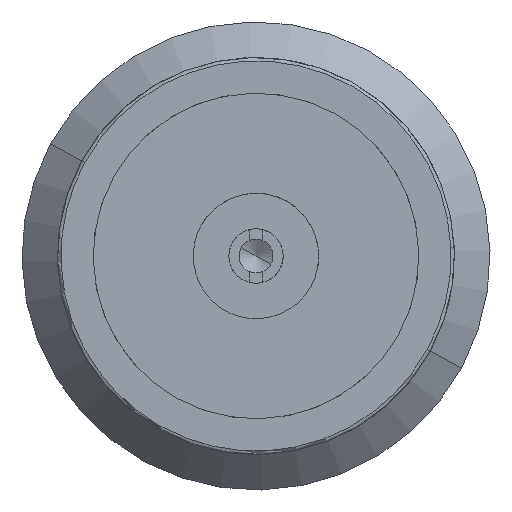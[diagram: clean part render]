
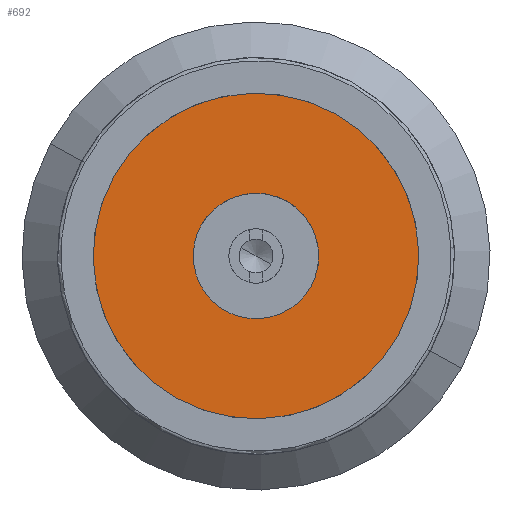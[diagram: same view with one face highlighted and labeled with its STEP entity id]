
A CAD part, left-side view. The second image highlights one B-rep face of the part: STEP entity #692.
In plain terms, the highlighted planar face has unit normal (-1, 0, 0).
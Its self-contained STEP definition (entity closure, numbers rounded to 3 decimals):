
#578=CARTESIAN_POINT('Vertex',(3.,0.812,0.443)) ;
#582=CARTESIAN_POINT('Control Point',(3.,-0.812,-0.443)) ;
#583=CARTESIAN_POINT('Control Point',(3.,-0.672,-0.698)) ;
#584=CARTESIAN_POINT('Control Point',(3.,-0.433,-0.899)) ;
#585=CARTESIAN_POINT('Control Point',(3.,-0.121,-0.99)) ;
#586=CARTESIAN_POINT('Control Point',(3.,0.498,-0.912)) ;
#587=CARTESIAN_POINT('Control Point',(3.,0.899,-0.433)) ;
#588=CARTESIAN_POINT('Control Point',(3.,0.99,-0.121)) ;
#589=CARTESIAN_POINT('Control Point',(3.,0.951,0.188)) ;
#590=CARTESIAN_POINT('Control Point',(3.,0.812,0.443)) ;
#591=CARTESIAN_POINT('Vertex',(3.,-0.812,-0.443)) ;
#611=CARTESIAN_POINT('Axis2P3D Location',(3.,0.,0.)) ;
#623=CARTESIAN_POINT('Axis2P3D Location',(3.,-2.4,0.)) ;
#629=CARTESIAN_POINT('Control Point',(3.,-2.106,-1.151)) ;
#630=CARTESIAN_POINT('Control Point',(3.,-1.997,-1.35)) ;
#631=CARTESIAN_POINT('Control Point',(3.,-1.864,-1.537)) ;
#632=CARTESIAN_POINT('Control Point',(3.,-1.71,-1.707)) ;
#633=CARTESIAN_POINT('Control Point',(3.,-1.363,-2.008)) ;
#634=CARTESIAN_POINT('Control Point',(3.,-0.956,-2.219)) ;
#635=CARTESIAN_POINT('Control Point',(3.,-0.741,-2.3)) ;
#636=CARTESIAN_POINT('Control Point',(3.,-0.296,-2.409)) ;
#637=CARTESIAN_POINT('Control Point',(3.,0.163,-2.411)) ;
#638=CARTESIAN_POINT('Control Point',(3.,0.391,-2.384)) ;
#639=CARTESIAN_POINT('Control Point',(3.,0.837,-2.278)) ;
#640=CARTESIAN_POINT('Control Point',(3.,1.246,-2.07)) ;
#641=CARTESIAN_POINT('Control Point',(3.,1.437,-1.942)) ;
#642=CARTESIAN_POINT('Control Point',(3.,1.785,-1.644)) ;
#643=CARTESIAN_POINT('Control Point',(3.,2.054,-1.273)) ;
#644=CARTESIAN_POINT('Control Point',(3.,2.166,-1.072)) ;
#645=CARTESIAN_POINT('Control Point',(3.,2.339,-0.647)) ;
#646=CARTESIAN_POINT('Control Point',(3.,2.409,-0.194)) ;
#647=CARTESIAN_POINT('Control Point',(3.,2.416,0.036)) ;
#648=CARTESIAN_POINT('Control Point',(3.,2.384,0.407)) ;
#649=CARTESIAN_POINT('Control Point',(3.,2.282,0.763)) ;
#650=CARTESIAN_POINT('Control Point',(3.,2.233,0.897)) ;
#651=CARTESIAN_POINT('Control Point',(3.,2.174,1.026)) ;
#652=CARTESIAN_POINT('Control Point',(3.,2.106,1.151)) ;
#653=CARTESIAN_POINT('Vertex',(3.,-2.106,-1.151)) ;
#655=CARTESIAN_POINT('Vertex',(3.,2.106,1.151)) ;
#659=CARTESIAN_POINT('Control Point',(3.,2.106,1.151)) ;
#660=CARTESIAN_POINT('Control Point',(3.,1.997,1.35)) ;
#661=CARTESIAN_POINT('Control Point',(3.,1.864,1.537)) ;
#662=CARTESIAN_POINT('Control Point',(3.,1.71,1.707)) ;
#663=CARTESIAN_POINT('Control Point',(3.,1.363,2.008)) ;
#664=CARTESIAN_POINT('Control Point',(3.,0.956,2.219)) ;
#665=CARTESIAN_POINT('Control Point',(3.,0.741,2.3)) ;
#666=CARTESIAN_POINT('Control Point',(3.,0.296,2.409)) ;
#667=CARTESIAN_POINT('Control Point',(3.,-0.163,2.411)) ;
#668=CARTESIAN_POINT('Control Point',(3.,-0.391,2.384)) ;
#669=CARTESIAN_POINT('Control Point',(3.,-0.837,2.278)) ;
#670=CARTESIAN_POINT('Control Point',(3.,-1.246,2.07)) ;
#671=CARTESIAN_POINT('Control Point',(3.,-1.437,1.942)) ;
#672=CARTESIAN_POINT('Control Point',(3.,-1.785,1.644)) ;
#673=CARTESIAN_POINT('Control Point',(3.,-2.054,1.273)) ;
#674=CARTESIAN_POINT('Control Point',(3.,-2.166,1.072)) ;
#675=CARTESIAN_POINT('Control Point',(3.,-2.339,0.647)) ;
#676=CARTESIAN_POINT('Control Point',(3.,-2.409,0.194)) ;
#677=CARTESIAN_POINT('Control Point',(3.,-2.416,-0.036)) ;
#678=CARTESIAN_POINT('Control Point',(3.,-2.384,-0.407)) ;
#679=CARTESIAN_POINT('Control Point',(3.,-2.282,-0.763)) ;
#680=CARTESIAN_POINT('Control Point',(3.,-2.233,-0.897)) ;
#681=CARTESIAN_POINT('Control Point',(3.,-2.174,-1.026)) ;
#682=CARTESIAN_POINT('Control Point',(3.,-2.106,-1.151)) ;
#612=DIRECTION('Axis2P3D Direction',(1.,0.,0.)) ;
#624=DIRECTION('Axis2P3D Direction',(1.,0.,0.)) ;
#625=DIRECTION('Axis2P3D XDirection',(0.,1.,0.)) ;
#613=AXIS2_PLACEMENT_3D('Circle Axis2P3D',#611,#612,$) ;
#626=AXIS2_PLACEMENT_3D('Plane Axis2P3D',#623,#624,#625) ;
#685=ORIENTED_EDGE('',*,*,#657,.F.) ;
#686=ORIENTED_EDGE('',*,*,#683,.F.) ;
#689=ORIENTED_EDGE('',*,*,#615,.T.) ;
#690=ORIENTED_EDGE('',*,*,#593,.T.) ;
#691=FACE_BOUND('',#688,.T.) ;
#692=ADVANCED_FACE('',(#687,#691),#627,.F.) ;
#581=B_SPLINE_CURVE_WITH_KNOTS('',5,(#582,#583,#584,#585,#586,#587,#588,#589,#590),.UNSPECIFIED.,.F.,.U.,(6,3,6),(-1.453,0.,1.453),.UNSPECIFIED.) ;
#628=B_SPLINE_CURVE_WITH_KNOTS('',5,(#629,#630,#631,#632,#633,#634,#635,#636,#637,#638,#639,#640,#641,#642,#643,#644,#645,#646,#647,#648,#649,#650,#651,#652),.UNSPECIFIED.,.F.,.U.,(6,3,3,3,3,3,3,6),(0.,1.61,3.22,4.83,6.44,8.05,9.66,10.663),.UNSPECIFIED.) ;
#658=B_SPLINE_CURVE_WITH_KNOTS('',5,(#659,#660,#661,#662,#663,#664,#665,#666,#667,#668,#669,#670,#671,#672,#673,#674,#675,#676,#677,#678,#679,#680,#681,#682),.UNSPECIFIED.,.F.,.U.,(6,3,3,3,3,3,3,6),(0.,1.61,3.22,4.83,6.44,8.05,9.66,10.663),.UNSPECIFIED.) ;
#614=CIRCLE('generated circle',#613,0.925) ;
#593=EDGE_CURVE('',#592,#579,#581,.T.) ;
#615=EDGE_CURVE('',#579,#592,#614,.T.) ;
#657=EDGE_CURVE('',#654,#656,#628,.T.) ;
#683=EDGE_CURVE('',#656,#654,#658,.T.) ;
#684=EDGE_LOOP('',(#685,#686)) ;
#688=EDGE_LOOP('',(#689,#690)) ;
#687=FACE_OUTER_BOUND('',#684,.T.) ;
#627=PLANE('Plane',#626) ;
#579=VERTEX_POINT('',#578) ;
#592=VERTEX_POINT('',#591) ;
#654=VERTEX_POINT('',#653) ;
#656=VERTEX_POINT('',#655) ;
